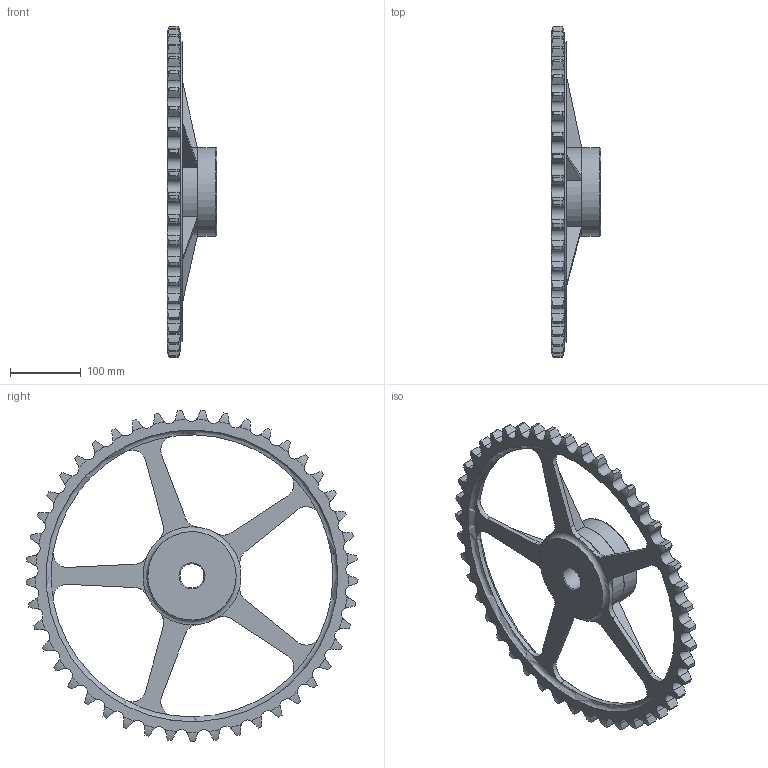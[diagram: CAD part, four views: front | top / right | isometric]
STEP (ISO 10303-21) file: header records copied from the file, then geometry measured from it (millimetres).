
FILE_DESCRIPTION(/* description */ (''),/* implementation_level */ '2;1');
FILE_NAME(/* name */ 'C:\Users\stagistacad\Desktop\12131045.stp',/* time_stamp */ '2018-06-20T16:38:17+02:00',/* author */ ('stagistacad'),/* organization */ (''),/* preprocessor_version */ 'ST-DEVELOPER v15.6',/* originating_system */ 'Autodesk Inventor 2015',/* authorisation */ '');
FILE_SCHEMA (('AUTOMOTIVE_DESIGN { 1 0 10303 214 3 1 1 }'));
Length unit declared in the file: millimetre
Products named in the file (1): 12131045
Bounding box: 70 x 469.97 x 469.76 mm (x, y, z)
Volume: 1572539 mm3; surface area: 255536.9 mm2
Topology: 1 solids, 1 shells, 370 faces, 1078 edges, 703 vertices
Faces by surface type: cylinder 228, torus 99, plane 40, cone 3
Full cylindrical faces by diameter (mm): 34 x1, 125 x1, 425 x1
Entity records: 13372 total; most frequent: CARTESIAN_POINT 4054, ORIENTED_EDGE 2128, DIRECTION 1800, EDGE_CURVE 1064, AXIS2_PLACEMENT_3D 765, VERTEX_POINT 699, CIRCLE 394, B_SPLINE_CURVE_WITH_KNOTS 390
